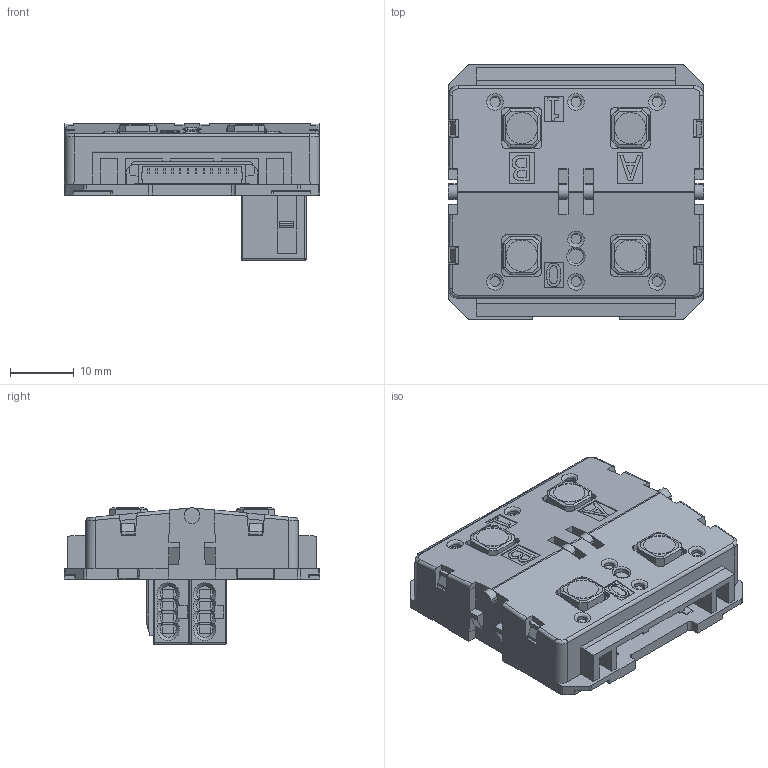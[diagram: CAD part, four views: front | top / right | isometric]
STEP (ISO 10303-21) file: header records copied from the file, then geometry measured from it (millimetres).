
FILE_DESCRIPTION(/* description */ (''),/* implementation_level */ '2;1');
FILE_NAME(/* name */ 'KNX_TP_Push_Button_420_1_secure.stp',/* time_stamp */ '2025-10-02T14:46:19+02:00',/* author */ (''),/* organization */ (''),/* preprocessor_version */ 'ST-DEVELOPER v17.2',/* originating_system */ 'Autodesk Inventor 2019',/* authorisation */ '');
FILE_SCHEMA (('AUTOMOTIVE_DESIGN { 1 0 10303 214 3 1 1 }'));
Length unit declared in the file: millimetre
Products named in the file (1): KNX_TP_Push_Button_420_1_secure
Bounding box: 40 x 40 x 21.38 mm (x, y, z)
Volume: 15182 mm3; surface area: 6872.7 mm2
Topology: 1 solids, 3 shells, 965 faces, 2583 edges, 1689 vertices
Faces by surface type: plane 730, cylinder 150, bspline 54, cone 17, sphere 12, torus 2
Full cylindrical faces by diameter (mm): 1 x2, 1.1 x2, 1.3 x2, 1.6 x7, 2.3 x1, 4.9 x4
Entity records: 31946 total; most frequent: CARTESIAN_POINT 6916, ORIENTED_EDGE 5150, DIRECTION 4661, EDGE_CURVE 2575, LINE 2079, VECTOR 2079, VERTEX_POINT 1689, AXIS2_PLACEMENT_3D 1291
